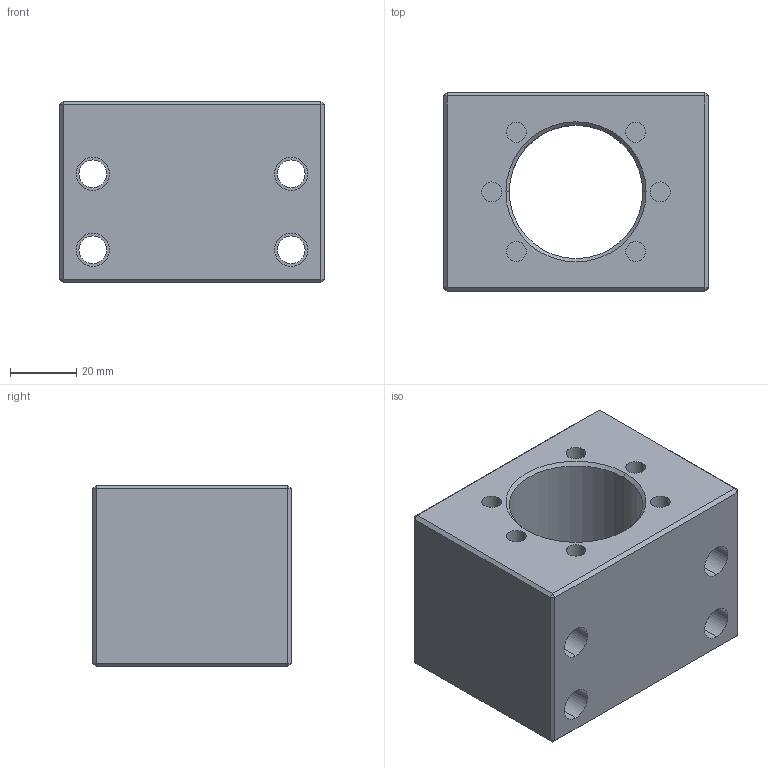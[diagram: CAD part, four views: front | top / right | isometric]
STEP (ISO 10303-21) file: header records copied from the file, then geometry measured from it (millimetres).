
FILE_DESCRIPTION (( 'STEP AP214' ), '1' );
FILE_NAME ('2.4021 Kuulamutterin kotelo MGD25.STEP', '2024-05-06T11:11:57', ( '' ), ( '' ), 'SwSTEP 2.0', 'SolidWorks 2024', '' );
FILE_SCHEMA (( 'AUTOMOTIVE_DESIGN' ));
Length unit declared in the file: millimetre
Products named in the file (1): 2.4021 Kuulamutterin kotelo MGD25
Bounding box: 80 x 60 x 55 mm (x, y, z)
Volume: 172001.3 mm3; surface area: 36922.8 mm2
Topology: 1 solids, 1 shells, 90 faces, 186 edges, 112 vertices
Faces by surface type: plane 40, cylinder 38, cone 12
Entity records: 2413 total; most frequent: DIRECTION 456, CARTESIAN_POINT 389, ORIENTED_EDGE 372, EDGE_CURVE 186, AXIS2_PLACEMENT_3D 179, EDGE_LOOP 114, VERTEX_POINT 112, VECTOR 98
